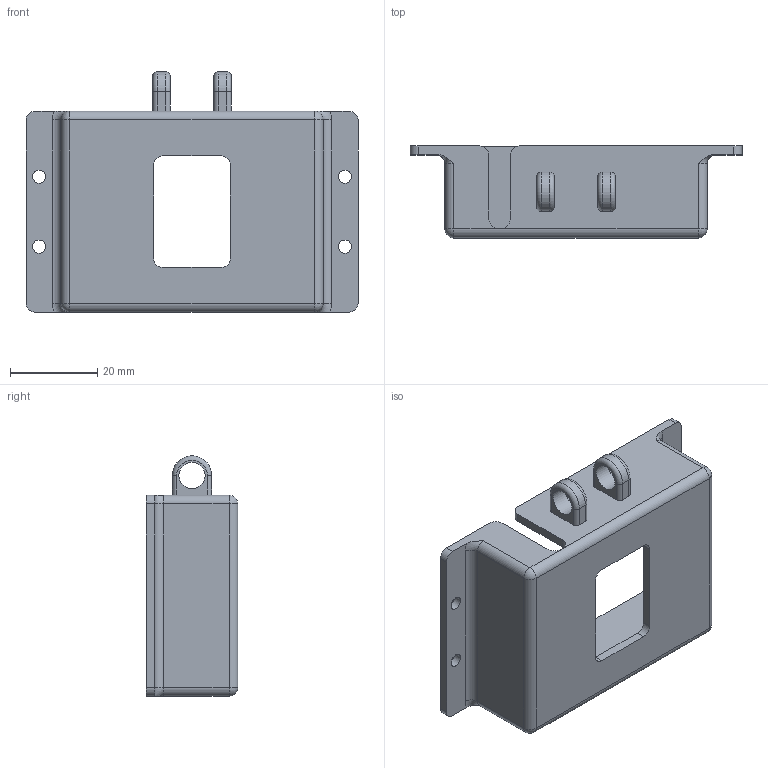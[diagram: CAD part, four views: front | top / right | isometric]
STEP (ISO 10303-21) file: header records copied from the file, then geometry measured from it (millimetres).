
FILE_DESCRIPTION(/* description */ (''),/* implementation_level */ '2;1');
FILE_NAME(/* name */ 'C:\Users\Banwz\Desktop\ВИМ\Теплица\Вер. 0.5\САЙТ\Камера.stp',/* time_stamp */ '2023-05-04T00:07:33+03:00',/* author */ ('Banwz'),/* organization */ (''),/* preprocessor_version */ 'ST-DEVELOPER v18.1',/* originating_system */ 'Autodesk Inventor 2021',/* authorisation */ '');
FILE_SCHEMA (('AUTOMOTIVE_DESIGN { 1 0 10303 214 3 1 1 }'));
Length unit declared in the file: millimetre
Products named in the file (1): Камера
Bounding box: 76 x 21 x 55 mm (x, y, z)
Volume: 13778.6 mm3; surface area: 14476.3 mm2
Topology: 1 solids, 1 shells, 80 faces, 202 edges, 126 vertices
Faces by surface type: cylinder 37, plane 31, torus 8, sphere 4
Full cylindrical faces by diameter (mm): 3 x4, 6 x2
Entity records: 2499 total; most frequent: CARTESIAN_POINT 445, DIRECTION 444, ORIENTED_EDGE 404, EDGE_CURVE 202, AXIS2_PLACEMENT_3D 165, VERTEX_POINT 126, LINE 114, VECTOR 114
